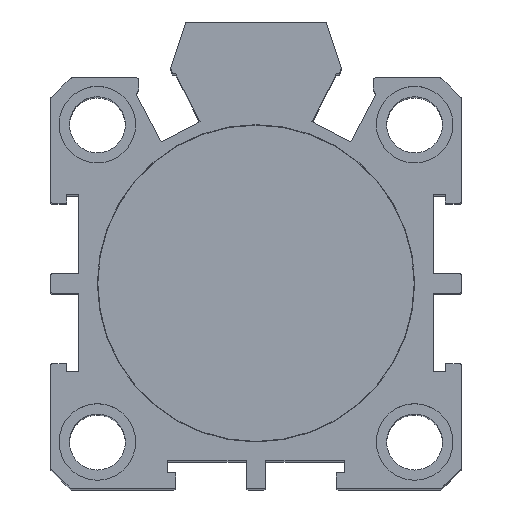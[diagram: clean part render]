
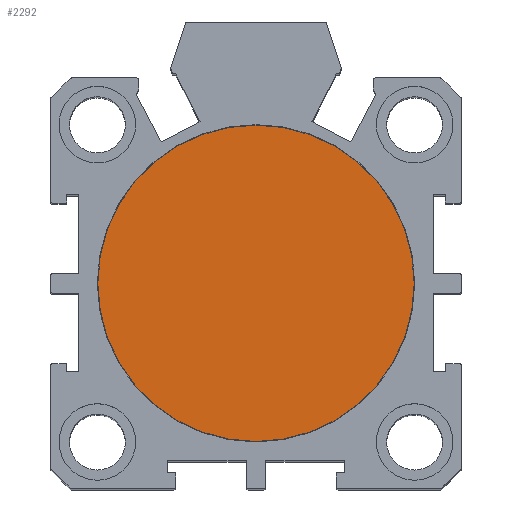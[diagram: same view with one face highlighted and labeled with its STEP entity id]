
A CAD part, top view. The second image highlights one B-rep face of the part: STEP entity #2292.
In plain terms, the highlighted planar face has unit normal (0, 0, 1) as drawn and (-1, 0, 0) by its records, which use the part's own axes.
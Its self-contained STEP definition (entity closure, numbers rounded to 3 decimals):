
#1231 = CARTESIAN_POINT ( 'NONE',  ( -0.52, 0., 0. ) ) ;
#1252 = DIRECTION ( 'NONE',  ( -1., 0., 0. ) ) ;
#1282 = DIRECTION ( 'NONE',  ( 0., 0., 1. ) ) ;
#1343 = CARTESIAN_POINT ( 'NONE',  ( -0.52, 0., 16.95 ) ) ;
#1420 = FACE_OUTER_BOUND ( 'NONE', #5396, .T. ) ;
#1532 = CARTESIAN_POINT ( 'NONE',  ( -0.52, 0., 0. ) ) ;
#1580 = EDGE_CURVE ( 'NONE', #7204, #6945, #2857, .T. ) ;
#2065 = EDGE_CURVE ( 'NONE', #6945, #7204, #5463, .T. ) ;
#2292 = ADVANCED_FACE ( 'NONE', ( #1420 ), #3030, .T. ) ;
#2734 = DIRECTION ( 'NONE',  ( -1., 0., 0. ) ) ;
#2857 = CIRCLE ( 'NONE', #6754, 16.95 ) ;
#3030 = PLANE ( 'NONE',  #7539 ) ;
#3100 = CARTESIAN_POINT ( 'NONE',  ( -0.52, 0., 0. ) ) ;
#3241 = DIRECTION ( 'NONE',  ( 0., 0., 1. ) ) ;
#4607 = ORIENTED_EDGE ( 'NONE', *, *, #2065, .T. ) ;
#4977 = ORIENTED_EDGE ( 'NONE', *, *, #1580, .T. ) ;
#5202 = CARTESIAN_POINT ( 'NONE',  ( -0.52, 0., -16.95 ) ) ;
#5396 = EDGE_LOOP ( 'NONE', ( #4607, #4977 ) ) ;
#5463 = CIRCLE ( 'NONE', #6860, 16.95 ) ;
#5751 = DIRECTION ( 'NONE',  ( -1., 0., 0. ) ) ;
#5753 = DIRECTION ( 'NONE',  ( 0., 0., 1. ) ) ;
#6754 = AXIS2_PLACEMENT_3D ( 'NONE', #1532, #5751, #5753 ) ;
#6860 = AXIS2_PLACEMENT_3D ( 'NONE', #1231, #1252, #1282 ) ;
#6945 = VERTEX_POINT ( 'NONE', #1343 ) ;
#7204 = VERTEX_POINT ( 'NONE', #5202 ) ;
#7539 = AXIS2_PLACEMENT_3D ( 'NONE', #3100, #2734, #3241 ) ;
